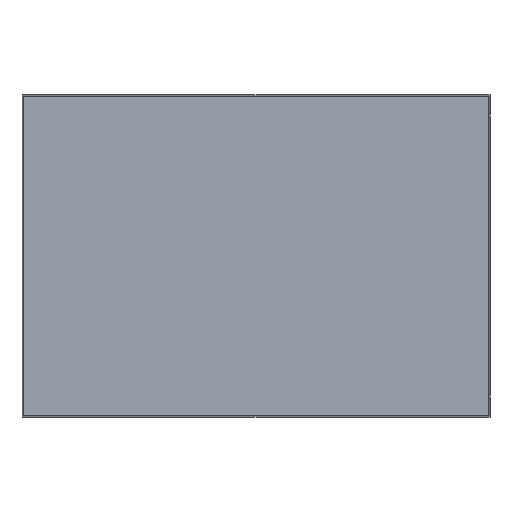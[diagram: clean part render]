
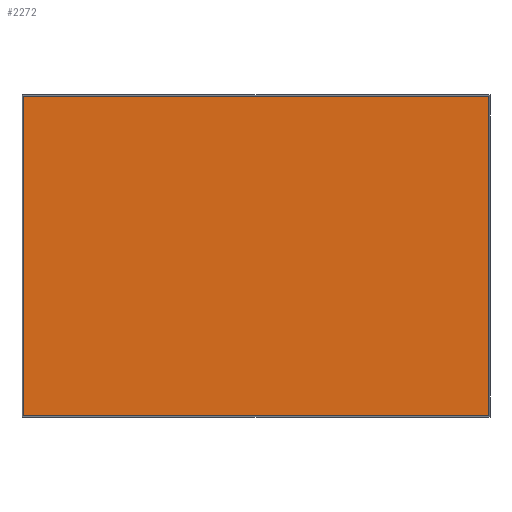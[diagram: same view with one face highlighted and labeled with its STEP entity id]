
A CAD part, front view. The second image highlights one B-rep face of the part: STEP entity #2272.
In plain terms, the highlighted planar face has unit normal (0, -1, 0).
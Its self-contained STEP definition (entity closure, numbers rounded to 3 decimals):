
#31 = PLANE ( 'NONE',  #3239 ) ;
#34 = VERTEX_POINT ( 'NONE', #2542 ) ;
#171 = EDGE_CURVE ( 'NONE', #34, #2059, #1885, .T. ) ;
#334 = DIRECTION ( 'NONE',  ( 0., 0., 1. ) ) ;
#438 = DIRECTION ( 'NONE',  ( 0., 1., 0. ) ) ;
#561 = VERTEX_POINT ( 'NONE', #2595 ) ;
#611 = DIRECTION ( 'NONE',  ( 0., 0., 1. ) ) ;
#755 = EDGE_CURVE ( 'NONE', #3029, #34, #1313, .T. ) ;
#998 = CARTESIAN_POINT ( 'NONE',  ( -31.928, -19.7, 22.1 ) ) ;
#1225 = CARTESIAN_POINT ( 'NONE',  ( -32.1, -19.7, 22.1 ) ) ;
#1243 = DIRECTION ( 'NONE',  ( 1., 0., 0. ) ) ;
#1313 = LINE ( 'NONE', #2202, #2225 ) ;
#1315 = CARTESIAN_POINT ( 'NONE',  ( -31.928, -19.7, -21.928 ) ) ;
#1419 = ORIENTED_EDGE ( 'NONE', *, *, #1650, .F. ) ;
#1589 = ORIENTED_EDGE ( 'NONE', *, *, #171, .F. ) ;
#1650 = EDGE_CURVE ( 'NONE', #2059, #561, #3163, .T. ) ;
#1693 = ORIENTED_EDGE ( 'NONE', *, *, #2389, .F. ) ;
#1698 = CARTESIAN_POINT ( 'NONE',  ( -32.1, -19.7, -21.928 ) ) ;
#1841 = EDGE_LOOP ( 'NONE', ( #1419, #1589, #2782, #1693 ) ) ;
#1885 = LINE ( 'NONE', #1698, #2130 ) ;
#2059 = VERTEX_POINT ( 'NONE', #1315 ) ;
#2130 = VECTOR ( 'NONE', #2601, 1000. ) ;
#2202 = CARTESIAN_POINT ( 'NONE',  ( 31.928, -19.7, 22.1 ) ) ;
#2225 = VECTOR ( 'NONE', #2841, 1000. ) ;
#2272 = ADVANCED_FACE ( 'NONE', ( #2567 ), #31, .F. ) ;
#2389 = EDGE_CURVE ( 'NONE', #561, #3029, #3081, .T. ) ;
#2512 = CARTESIAN_POINT ( 'NONE',  ( -32.1, -19.7, 21.928 ) ) ;
#2542 = CARTESIAN_POINT ( 'NONE',  ( 31.928, -19.7, -21.928 ) ) ;
#2543 = CARTESIAN_POINT ( 'NONE',  ( 31.928, -19.7, 21.928 ) ) ;
#2567 = FACE_OUTER_BOUND ( 'NONE', #1841, .T. ) ;
#2595 = CARTESIAN_POINT ( 'NONE',  ( -31.928, -19.7, 21.928 ) ) ;
#2601 = DIRECTION ( 'NONE',  ( -1., 0., 0. ) ) ;
#2782 = ORIENTED_EDGE ( 'NONE', *, *, #755, .F. ) ;
#2841 = DIRECTION ( 'NONE',  ( 0., 0., -1. ) ) ;
#2952 = VECTOR ( 'NONE', #1243, 1000. ) ;
#3029 = VERTEX_POINT ( 'NONE', #2543 ) ;
#3081 = LINE ( 'NONE', #2512, #2952 ) ;
#3154 = VECTOR ( 'NONE', #334, 1000. ) ;
#3163 = LINE ( 'NONE', #998, #3154 ) ;
#3239 = AXIS2_PLACEMENT_3D ( 'NONE', #1225, #438, #611 ) ;
